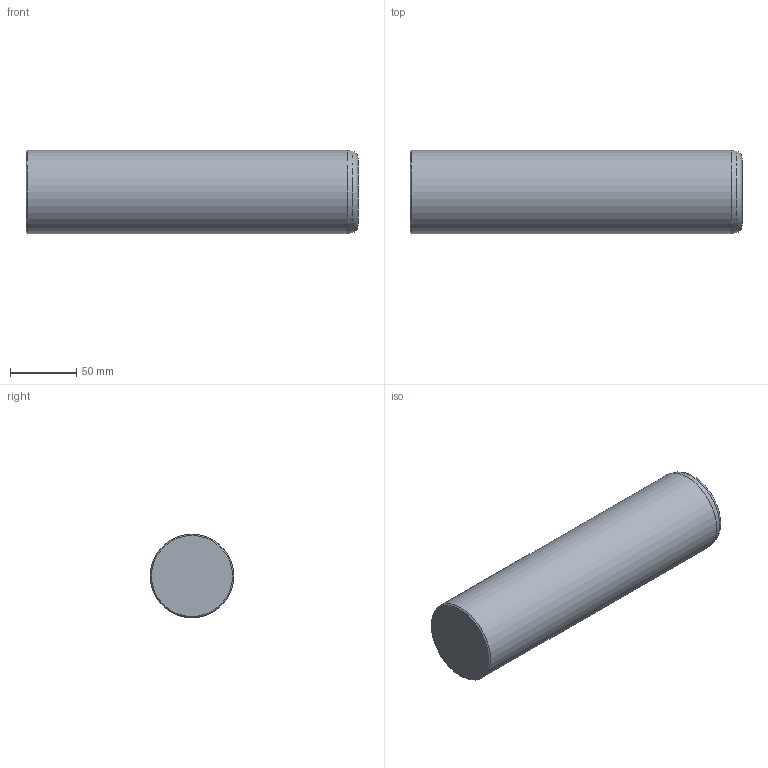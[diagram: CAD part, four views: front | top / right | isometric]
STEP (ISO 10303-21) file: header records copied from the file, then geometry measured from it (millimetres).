
FILE_DESCRIPTION(/* description */ ('Impex Ready, www.impex-ready.pl'),/* implementation_level */ '2;1');
FILE_NAME(/* name */ 'C:\Users\VIKKY\Nextcloud\SM\projekt 10 - części na stronę internetową\Pliki_3D_new\287 Słupy C4\287_C4_STEP\C463250.ipt.step',/* time_stamp */ '2021-12-20T14:25:55+01:00',/* author */ ('SM'),/* organization */ (''),/* preprocessor_version */ 'ST-DEVELOPER v18.1',/* originating_system */ 'Autodesk Inventor 2021',/* authorisation */ '');
FILE_SCHEMA (('AUTOMOTIVE_DESIGN { 1 0 10303 214 3 1 1 }'));
Length unit declared in the file: millimetre
Products named in the file (1): C463250
Bounding box: 250 x 63 x 63 mm (x, y, z)
Volume: 777129.2 mm3; surface area: 54985.2 mm2
Topology: 1 solids, 1 shells, 6 faces, 12 edges, 8 vertices
Faces by surface type: cone 2, plane 2, torus 1, cylinder 1
Full cylindrical faces by diameter (mm): 63 x1
Entity records: 239 total; most frequent: DIRECTION 35, CARTESIAN_POINT 27, ORIENTED_EDGE 24, AXIS2_PLACEMENT_3D 16, EDGE_CURVE 12, CIRCLE 9, VERTEX_POINT 8, STYLED_ITEM 7
